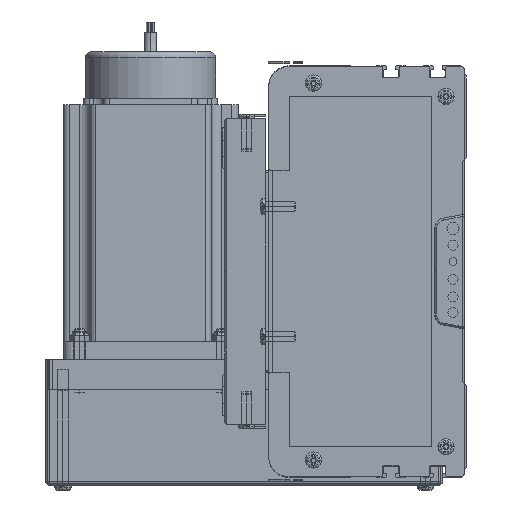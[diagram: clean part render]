
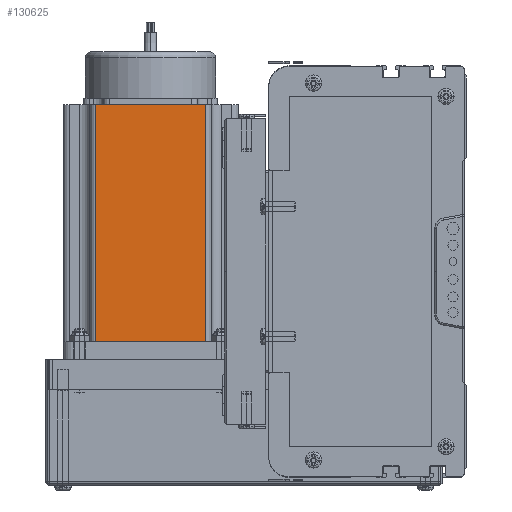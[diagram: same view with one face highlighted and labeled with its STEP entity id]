
A CAD part, left-side view. The second image highlights one B-rep face of the part: STEP entity #130625.
In plain terms, the highlighted planar face has unit normal (-1, 0, 0) as drawn and (0, -1, 0) by its records, which use the part's own axes.
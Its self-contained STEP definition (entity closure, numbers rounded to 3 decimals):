
#12520 = DIRECTION ( 'NONE',  ( 1., 0., 0. ) ) ;
#12521 = VECTOR ( 'NONE', #12520, 1000. ) ;
#12522 = CARTESIAN_POINT ( 'NONE',  ( 0., 0., 116.5 ) ) ;
#12523 = LINE ( 'NONE', #12522, #12521 ) ;
#12635 = CARTESIAN_POINT ( 'NONE',  ( 16.16, 0., 116.5 ) ) ;
#12657 = CARTESIAN_POINT ( 'NONE',  ( 69.74, 0., 0. ) ) ;
#12687 = CARTESIAN_POINT ( 'NONE',  ( 69.74, 0., 116.5 ) ) ;
#12690 = LINE ( 'NONE', #12734, #12733 ) ;
#12692 = CARTESIAN_POINT ( 'NONE',  ( 0., 0., 0. ) ) ;
#12693 = LINE ( 'NONE', #12692, #12757 ) ;
#12732 = DIRECTION ( 'NONE',  ( 0., 0., -1. ) ) ;
#12733 = VECTOR ( 'NONE', #12732, 1000. ) ;
#12734 = CARTESIAN_POINT ( 'NONE',  ( 16.16, 0., 116.5 ) ) ;
#12756 = DIRECTION ( 'NONE',  ( 1., 0., 0. ) ) ;
#12757 = VECTOR ( 'NONE', #12756, 1000. ) ;
#12770 = DIRECTION ( 'NONE',  ( 0., 0., 1. ) ) ;
#12771 = VECTOR ( 'NONE', #12770, 1000. ) ;
#12772 = CARTESIAN_POINT ( 'NONE',  ( 69.74, 0., 116.5 ) ) ;
#12773 = LINE ( 'NONE', #12772, #12771 ) ;
#73093 = CARTESIAN_POINT ( 'NONE',  ( 16.16, 0., 0. ) ) ;
#73189 = FACE_OUTER_BOUND ( 'NONE', #130938, .T. ) ;
#73194 = AXIS2_PLACEMENT_3D ( 'NONE', #73221, #73219, #73297 ) ;
#73219 = DIRECTION ( 'NONE',  ( 0., 1., 0. ) ) ;
#73221 = CARTESIAN_POINT ( 'NONE',  ( 0., 0., 116.5 ) ) ;
#73297 = DIRECTION ( 'NONE',  ( 0., 0., 1. ) ) ;
#73310 = PLANE ( 'NONE',  #73194 ) ;
#130596 = VERTEX_POINT ( 'NONE', #73093 ) ;
#130625 = ADVANCED_FACE ( 'NONE', ( #73189 ), #73310, .F. ) ;
#130627 = ORIENTED_EDGE ( 'NONE', *, *, #130945, .T. ) ;
#130735 = EDGE_CURVE ( 'NONE', #130867, #130871, #12523, .T. ) ;
#130867 = VERTEX_POINT ( 'NONE', #12635 ) ;
#130871 = VERTEX_POINT ( 'NONE', #12687 ) ;
#130909 = VERTEX_POINT ( 'NONE', #12657 ) ;
#130938 = EDGE_LOOP ( 'NONE', ( #130627, #131473, #130990, #130974 ) ) ;
#130945 = EDGE_CURVE ( 'NONE', #130596, #130909, #12693, .T. ) ;
#130973 = EDGE_CURVE ( 'NONE', #130867, #130596, #12690, .T. ) ;
#130974 = ORIENTED_EDGE ( 'NONE', *, *, #130973, .T. ) ;
#130990 = ORIENTED_EDGE ( 'NONE', *, *, #130735, .F. ) ;
#131009 = EDGE_CURVE ( 'NONE', #130909, #130871, #12773, .T. ) ;
#131473 = ORIENTED_EDGE ( 'NONE', *, *, #131009, .T. ) ;
